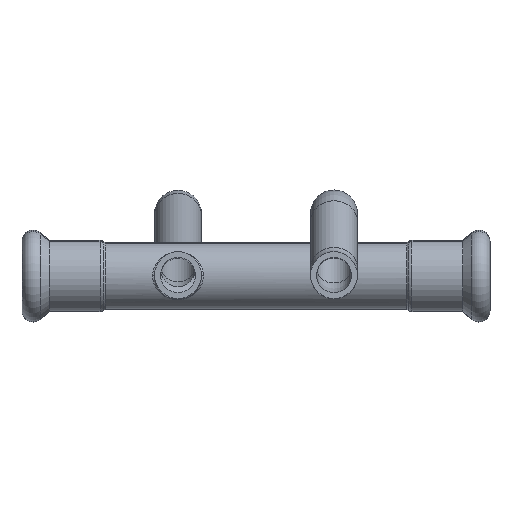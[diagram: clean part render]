
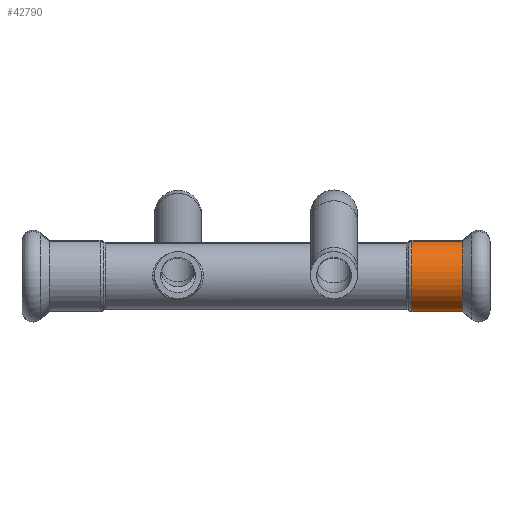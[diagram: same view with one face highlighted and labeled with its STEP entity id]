
A CAD part, top view. The second image highlights one B-rep face of the part: STEP entity #42790.
In plain terms, the highlighted cylindrical face has radius 9.125 mm (diameter 18.25 mm), a partial arc.
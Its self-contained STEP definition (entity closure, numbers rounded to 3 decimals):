
#42250=CARTESIAN_POINT('',(-1.199,22.648,
0.));
#42260=VERTEX_POINT('',#42250);
#42340=CARTESIAN_POINT('',(-1.199,4.398,0.));
#42350=VERTEX_POINT('',#42340);
#42380=CARTESIAN_POINT('',(-1.199,13.523,0.));
#42390=DIRECTION('',(1.,0.,0.));
#42400=DIRECTION('',(-0.,-1.,-0.));
#42410=AXIS2_PLACEMENT_3D('',#42380,#42390,#42400);
#42420=CIRCLE('',#42410,9.125);
#42430=EDGE_CURVE('',#42260,#42350,#42420,.T.);
#42480=CARTESIAN_POINT('',(-7.691,13.523,0.));
#42490=DIRECTION('',(1.,0.,0.));
#42500=DIRECTION('',(-0.,-1.,-0.));
#42510=AXIS2_PLACEMENT_3D('',#42480,#42490,#42500);
#42520=CYLINDRICAL_SURFACE('',#42510,9.125);
#42530=CARTESIAN_POINT('',(-7.691,22.648,
0.));
#42540=DIRECTION('',(1.,0.,0.));
#42550=VECTOR('',#42540,1.);
#42560=LINE('',#42530,#42550);
#42570=CARTESIAN_POINT('',(-14.183,22.648,0.));
#42580=VERTEX_POINT('',#42570);
#42590=EDGE_CURVE('',#42580,#42260,#42560,.T.);
#42600=ORIENTED_EDGE('',*,*,#42590,.F.);
#42610=ORIENTED_EDGE('',*,*,#42430,.F.);
#42620=CARTESIAN_POINT('',(-7.691,4.398,0.));
#42630=DIRECTION('',(1.,0.,0.));
#42640=VECTOR('',#42630,1.);
#42650=LINE('',#42620,#42640);
#42660=CARTESIAN_POINT('',(-14.183,4.398,0.));
#42670=VERTEX_POINT('',#42660);
#42680=EDGE_CURVE('',#42670,#42350,#42650,.T.);
#42690=ORIENTED_EDGE('',*,*,#42680,.T.);
#42700=CARTESIAN_POINT('',(-14.183,13.523,0.));
#42710=DIRECTION('',(1.,0.,0.));
#42720=DIRECTION('',(0.,-1.,-0.));
#42730=AXIS2_PLACEMENT_3D('',#42700,#42710,#42720);
#42740=CIRCLE('',#42730,9.125);
#42750=EDGE_CURVE('',#42580,#42670,#42740,.T.);
#42760=ORIENTED_EDGE('',*,*,#42750,.T.);
#42770=EDGE_LOOP('',(#42760,#42690,#42610,#42600));
#42780=FACE_OUTER_BOUND('',#42770,.T.);
#42790=ADVANCED_FACE('',(#42780),#42520,.T.);
